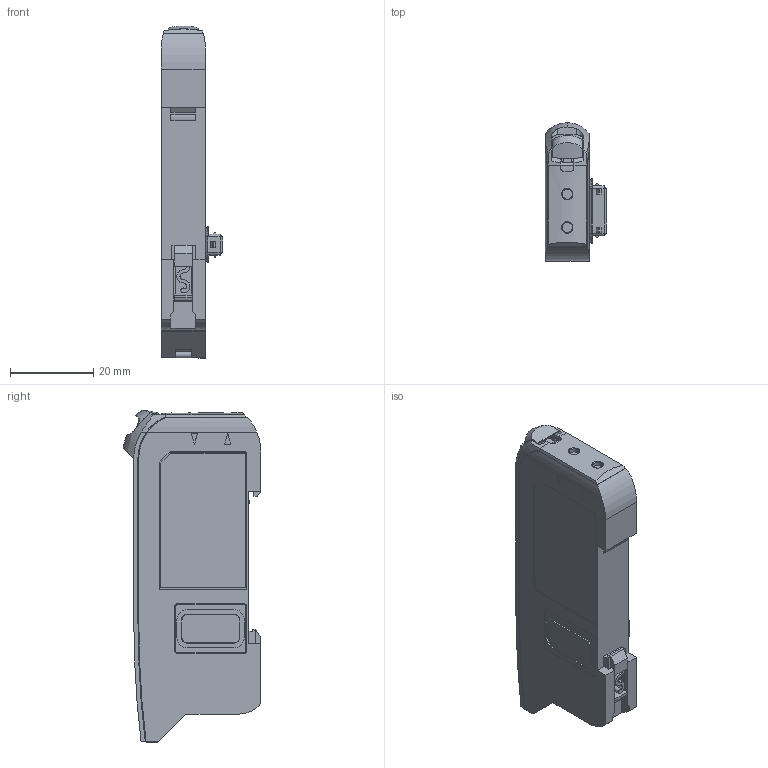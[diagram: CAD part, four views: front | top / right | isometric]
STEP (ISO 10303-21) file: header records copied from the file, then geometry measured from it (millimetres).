
FILE_DESCRIPTION (( 'STEP AP214' ), '1' );
FILE_NAME ('D4RF-S_220425.STEP', '2022-04-25T11:05:04', ( '' ), ( '' ), 'SwSTEP 2.0', 'SolidWorks 2021', '' );
FILE_SCHEMA (( 'AUTOMOTIVE_DESIGN' ));
Length unit declared in the file: millimetre
Products named in the file (1): D4RF-S_220425
Bounding box: 14.72 x 33.17 x 79.85 mm (x, y, z)
Volume: 22293.7 mm3; surface area: 8320.4 mm2
Topology: 1 solids, 16 shells, 696 faces, 1798 edges, 1161 vertices
Faces by surface type: plane 341, cylinder 186, bspline 106, cone 63
Entity records: 24206 total; most frequent: CARTESIAN_POINT 7925, ORIENTED_EDGE 3580, DIRECTION 3018, EDGE_CURVE 1790, VERTEX_POINT 1161, VECTOR 1010, LINE 1010, AXIS2_PLACEMENT_3D 1004
